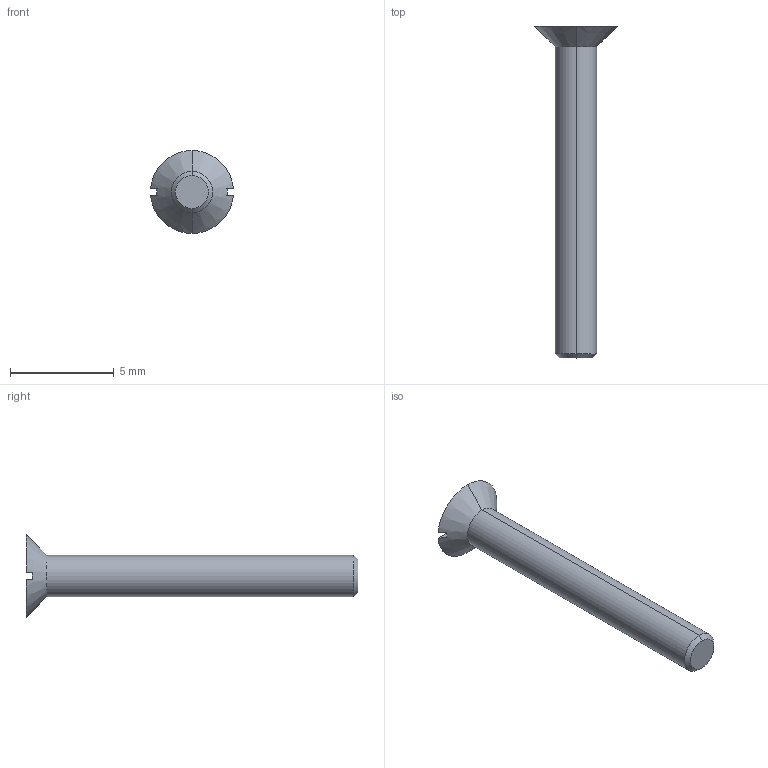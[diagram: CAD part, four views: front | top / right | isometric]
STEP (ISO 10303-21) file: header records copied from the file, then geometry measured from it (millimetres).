
FILE_DESCRIPTION (( 'STEP AP214' ), '1' );
FILE_NAME ('vite M2 x 16.STEP', '2016-02-27T11:30:06', ( '' ), ( '' ), 'SwSTEP 2.0', 'SolidWorks 2012', '' );
FILE_SCHEMA (( 'AUTOMOTIVE_DESIGN' ));
Length unit declared in the file: millimetre
Products named in the file (1): vite M2 x 16
Bounding box: 3.99 x 16 x 4 mm (x, y, z)
Volume: 54 mm3; surface area: 124.3 mm2
Topology: 1 solids, 1 shells, 12 faces, 26 edges, 16 vertices
Faces by surface type: plane 6, cone 4, cylinder 2
Entity records: 368 total; most frequent: CARTESIAN_POINT 67, DIRECTION 60, ORIENTED_EDGE 52, EDGE_CURVE 26, AXIS2_PLACEMENT_3D 25, VERTEX_POINT 16, EDGE_LOOP 12, FACE_OUTER_BOUND 12
